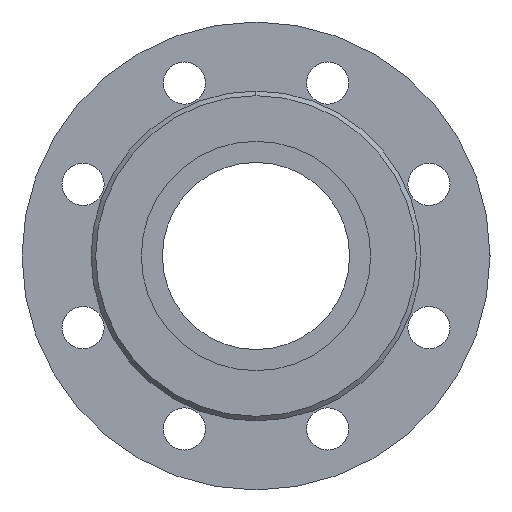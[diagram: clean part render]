
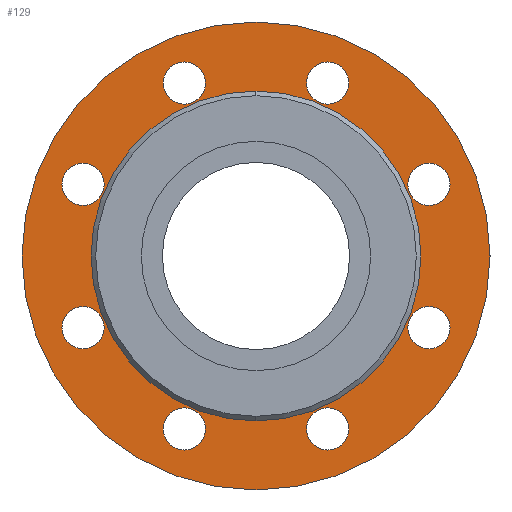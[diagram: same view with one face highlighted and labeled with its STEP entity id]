
A CAD part, left-side view. The second image highlights one B-rep face of the part: STEP entity #129.
In plain terms, the highlighted planar face has unit normal (-1, 0, 0).
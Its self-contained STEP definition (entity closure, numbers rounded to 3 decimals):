
#129=ADVANCED_FACE('',(#292,#293,#294,#295,#296,#297,#298,#299,#300,#301),#302,.F.);
#292=FACE_BOUND('',#556,.T.);
#293=FACE_BOUND('',#557,.T.);
#294=FACE_BOUND('',#558,.T.);
#295=FACE_BOUND('',#559,.T.);
#296=FACE_BOUND('',#560,.T.);
#297=FACE_BOUND('',#561,.T.);
#298=FACE_BOUND('',#562,.T.);
#299=FACE_BOUND('',#563,.T.);
#300=FACE_BOUND('',#564,.T.);
#301=FACE_OUTER_BOUND('',#565,.T.);
#302=PLANE('',#566);
#556=EDGE_LOOP('',(#795,#796));
#557=EDGE_LOOP('',(#797,#798));
#558=EDGE_LOOP('',(#799,#800));
#559=EDGE_LOOP('',(#801,#802));
#560=EDGE_LOOP('',(#803,#804));
#561=EDGE_LOOP('',(#805,#806));
#562=EDGE_LOOP('',(#807,#808));
#563=EDGE_LOOP('',(#809,#810));
#564=EDGE_LOOP('',(#811,#812));
#565=EDGE_LOOP('',(#813,#814));
#566=AXIS2_PLACEMENT_3D('',#815,#816,#817);
#795=ORIENTED_EDGE('',*,*,#1357,.T.);
#796=ORIENTED_EDGE('',*,*,#1358,.T.);
#797=ORIENTED_EDGE('',*,*,#1359,.T.);
#798=ORIENTED_EDGE('',*,*,#1360,.T.);
#799=ORIENTED_EDGE('',*,*,#1361,.T.);
#800=ORIENTED_EDGE('',*,*,#1362,.T.);
#801=ORIENTED_EDGE('',*,*,#1363,.T.);
#802=ORIENTED_EDGE('',*,*,#1364,.T.);
#803=ORIENTED_EDGE('',*,*,#1365,.T.);
#804=ORIENTED_EDGE('',*,*,#1366,.T.);
#805=ORIENTED_EDGE('',*,*,#1367,.T.);
#806=ORIENTED_EDGE('',*,*,#1368,.T.);
#807=ORIENTED_EDGE('',*,*,#1369,.T.);
#808=ORIENTED_EDGE('',*,*,#1370,.T.);
#809=ORIENTED_EDGE('',*,*,#1371,.T.);
#810=ORIENTED_EDGE('',*,*,#1353,.T.);
#811=ORIENTED_EDGE('',*,*,#1372,.T.);
#812=ORIENTED_EDGE('',*,*,#1373,.T.);
#813=ORIENTED_EDGE('',*,*,#1374,.F.);
#814=ORIENTED_EDGE('',*,*,#1375,.F.);
#815=CARTESIAN_POINT('',(2.0,0.0,0.));
#816=DIRECTION('',(1.0,0.0,0.));
#817=DIRECTION('',(0.,0.0,-1.0));
#1353=EDGE_CURVE('',#1578,#1576,#1579,.T.);
#1357=EDGE_CURVE('',#1584,#1585,#1586,.T.);
#1358=EDGE_CURVE('',#1585,#1584,#1587,.T.);
#1359=EDGE_CURVE('',#1588,#1589,#1590,.T.);
#1360=EDGE_CURVE('',#1589,#1588,#1591,.T.);
#1361=EDGE_CURVE('',#1592,#1593,#1594,.T.);
#1362=EDGE_CURVE('',#1593,#1592,#1595,.T.);
#1363=EDGE_CURVE('',#1596,#1597,#1598,.T.);
#1364=EDGE_CURVE('',#1597,#1596,#1599,.T.);
#1365=EDGE_CURVE('',#1600,#1601,#1602,.T.);
#1366=EDGE_CURVE('',#1601,#1600,#1603,.T.);
#1367=EDGE_CURVE('',#1604,#1605,#1606,.T.);
#1368=EDGE_CURVE('',#1605,#1604,#1607,.T.);
#1369=EDGE_CURVE('',#1608,#1609,#1610,.T.);
#1370=EDGE_CURVE('',#1609,#1608,#1611,.T.);
#1371=EDGE_CURVE('',#1576,#1578,#1612,.T.);
#1372=EDGE_CURVE('',#1613,#1614,#1615,.T.);
#1373=EDGE_CURVE('',#1614,#1613,#1616,.T.);
#1374=EDGE_CURVE('',#1617,#1618,#1619,.T.);
#1375=EDGE_CURVE('',#1618,#1617,#1620,.T.);
#1576=VERTEX_POINT('',#1903);
#1578=VERTEX_POINT('',#1906);
#1579=CIRCLE('',#1907,9.0);
#1584=VERTEX_POINT('',#1913);
#1585=VERTEX_POINT('',#1914);
#1586=CIRCLE('',#1915,40.0);
#1587=CIRCLE('',#1916,40.0);
#1588=VERTEX_POINT('',#1917);
#1589=VERTEX_POINT('',#1918);
#1590=CIRCLE('',#1919,9.0);
#1591=CIRCLE('',#1920,9.0);
#1592=VERTEX_POINT('',#1921);
#1593=VERTEX_POINT('',#1922);
#1594=CIRCLE('',#1923,9.0);
#1595=CIRCLE('',#1924,9.0);
#1596=VERTEX_POINT('',#1925);
#1597=VERTEX_POINT('',#1926);
#1598=CIRCLE('',#1927,9.0);
#1599=CIRCLE('',#1928,9.0);
#1600=VERTEX_POINT('',#1929);
#1601=VERTEX_POINT('',#1930);
#1602=CIRCLE('',#1931,9.0);
#1603=CIRCLE('',#1932,9.0);
#1604=VERTEX_POINT('',#1933);
#1605=VERTEX_POINT('',#1934);
#1606=CIRCLE('',#1935,9.0);
#1607=CIRCLE('',#1936,9.0);
#1608=VERTEX_POINT('',#1937);
#1609=VERTEX_POINT('',#1938);
#1610=CIRCLE('',#1939,9.0);
#1611=CIRCLE('',#1940,9.0);
#1612=CIRCLE('',#1941,9.0);
#1613=VERTEX_POINT('',#1942);
#1614=VERTEX_POINT('',#1943);
#1615=CIRCLE('',#1944,9.0);
#1616=CIRCLE('',#1945,9.0);
#1617=VERTEX_POINT('',#1946);
#1618=VERTEX_POINT('',#1947);
#1619=CIRCLE('',#1948,100.0);
#1620=CIRCLE('',#1949,100.0);
#1903=CARTESIAN_POINT('',(2.0,-73.91,-39.615));
#1906=CARTESIAN_POINT('',(2.0,-73.91,-21.615));
#1907=AXIS2_PLACEMENT_3D('',#2281,#2282,#2283);
#1913=CARTESIAN_POINT('',(2.0,0.,40.0));
#1914=CARTESIAN_POINT('',(2.0,0.,-40.0));
#1915=AXIS2_PLACEMENT_3D('',#2288,#2289,#2290);
#1916=AXIS2_PLACEMENT_3D('',#2291,#2292,#2293);
#1917=CARTESIAN_POINT('',(2.0,73.91,-39.615));
#1918=CARTESIAN_POINT('',(2.0,73.91,-21.615));
#1919=AXIS2_PLACEMENT_3D('',#2294,#2295,#2296);
#1920=AXIS2_PLACEMENT_3D('',#2297,#2298,#2299);
#1921=CARTESIAN_POINT('',(2.0,30.615,-82.91));
#1922=CARTESIAN_POINT('',(2.0,30.615,-64.91));
#1923=AXIS2_PLACEMENT_3D('',#2300,#2301,#2302);
#1924=AXIS2_PLACEMENT_3D('',#2303,#2304,#2305);
#1925=CARTESIAN_POINT('',(2.0,-73.91,21.615));
#1926=CARTESIAN_POINT('',(2.0,-73.91,39.615));
#1927=AXIS2_PLACEMENT_3D('',#2306,#2307,#2308);
#1928=AXIS2_PLACEMENT_3D('',#2309,#2310,#2311);
#1929=CARTESIAN_POINT('',(2.0,-30.615,64.91));
#1930=CARTESIAN_POINT('',(2.0,-30.615,82.91));
#1931=AXIS2_PLACEMENT_3D('',#2312,#2313,#2314);
#1932=AXIS2_PLACEMENT_3D('',#2315,#2316,#2317);
#1933=CARTESIAN_POINT('',(2.0,73.91,21.615));
#1934=CARTESIAN_POINT('',(2.0,73.91,39.615));
#1935=AXIS2_PLACEMENT_3D('',#2318,#2319,#2320);
#1936=AXIS2_PLACEMENT_3D('',#2321,#2322,#2323);
#1937=CARTESIAN_POINT('',(2.0,30.615,64.91));
#1938=CARTESIAN_POINT('',(2.0,30.615,82.91));
#1939=AXIS2_PLACEMENT_3D('',#2324,#2325,#2326);
#1940=AXIS2_PLACEMENT_3D('',#2327,#2328,#2329);
#1941=AXIS2_PLACEMENT_3D('',#2330,#2331,#2332);
#1942=CARTESIAN_POINT('',(2.0,-30.615,-82.91));
#1943=CARTESIAN_POINT('',(2.0,-30.615,-64.91));
#1944=AXIS2_PLACEMENT_3D('',#2333,#2334,#2335);
#1945=AXIS2_PLACEMENT_3D('',#2336,#2337,#2338);
#1946=CARTESIAN_POINT('',(2.,0.0,-100.0));
#1947=CARTESIAN_POINT('',(2.,0.,100.0));
#1948=AXIS2_PLACEMENT_3D('',#2339,#2340,#2341);
#1949=AXIS2_PLACEMENT_3D('',#2342,#2343,#2344);
#2281=CARTESIAN_POINT('',(2.0,-73.91,-30.615));
#2282=DIRECTION('',(1.0,0.0,0.));
#2283=DIRECTION('',(0.,0.0,-1.0));
#2288=CARTESIAN_POINT('',(2.0,0.0,0.));
#2289=DIRECTION('',(1.0,0.0,0.));
#2290=DIRECTION('',(0.,0.0,-1.0));
#2291=CARTESIAN_POINT('',(2.0,0.0,0.));
#2292=DIRECTION('',(1.0,0.0,0.));
#2293=DIRECTION('',(0.,0.0,-1.0));
#2294=CARTESIAN_POINT('',(2.0,73.91,-30.615));
#2295=DIRECTION('',(1.0,0.0,0.));
#2296=DIRECTION('',(0.,0.0,-1.0));
#2297=CARTESIAN_POINT('',(2.0,73.91,-30.615));
#2298=DIRECTION('',(1.0,0.0,0.));
#2299=DIRECTION('',(0.,0.0,-1.0));
#2300=CARTESIAN_POINT('',(2.0,30.615,-73.91));
#2301=DIRECTION('',(1.0,0.0,0.));
#2302=DIRECTION('',(0.,0.0,-1.0));
#2303=CARTESIAN_POINT('',(2.0,30.615,-73.91));
#2304=DIRECTION('',(1.0,0.0,0.));
#2305=DIRECTION('',(0.,0.0,-1.0));
#2306=CARTESIAN_POINT('',(2.0,-73.91,30.615));
#2307=DIRECTION('',(1.0,0.0,0.));
#2308=DIRECTION('',(0.,0.0,-1.0));
#2309=CARTESIAN_POINT('',(2.0,-73.91,30.615));
#2310=DIRECTION('',(1.0,0.0,0.));
#2311=DIRECTION('',(0.,0.0,-1.0));
#2312=CARTESIAN_POINT('',(2.0,-30.615,73.91));
#2313=DIRECTION('',(1.0,0.0,0.));
#2314=DIRECTION('',(0.,0.0,-1.0));
#2315=CARTESIAN_POINT('',(2.0,-30.615,73.91));
#2316=DIRECTION('',(1.0,0.0,0.));
#2317=DIRECTION('',(0.,0.0,-1.0));
#2318=CARTESIAN_POINT('',(2.0,73.91,30.615));
#2319=DIRECTION('',(1.0,0.0,0.));
#2320=DIRECTION('',(0.,0.0,-1.0));
#2321=CARTESIAN_POINT('',(2.0,73.91,30.615));
#2322=DIRECTION('',(1.0,0.0,0.));
#2323=DIRECTION('',(0.,0.0,-1.0));
#2324=CARTESIAN_POINT('',(2.0,30.615,73.91));
#2325=DIRECTION('',(1.0,0.0,0.));
#2326=DIRECTION('',(0.,0.0,-1.0));
#2327=CARTESIAN_POINT('',(2.0,30.615,73.91));
#2328=DIRECTION('',(1.0,0.0,0.));
#2329=DIRECTION('',(0.,0.0,-1.0));
#2330=CARTESIAN_POINT('',(2.0,-73.91,-30.615));
#2331=DIRECTION('',(1.0,0.0,0.));
#2332=DIRECTION('',(0.,0.0,-1.0));
#2333=CARTESIAN_POINT('',(2.0,-30.615,-73.91));
#2334=DIRECTION('',(1.0,0.0,0.));
#2335=DIRECTION('',(0.,0.0,-1.0));
#2336=CARTESIAN_POINT('',(2.0,-30.615,-73.91));
#2337=DIRECTION('',(1.0,0.0,0.));
#2338=DIRECTION('',(0.,0.0,-1.0));
#2339=CARTESIAN_POINT('',(2.0,0.0,0.));
#2340=DIRECTION('',(1.0,0.0,0.));
#2341=DIRECTION('',(0.,0.0,-1.0));
#2342=CARTESIAN_POINT('',(2.0,0.0,0.));
#2343=DIRECTION('',(1.0,0.0,0.));
#2344=DIRECTION('',(0.,0.0,-1.0));
